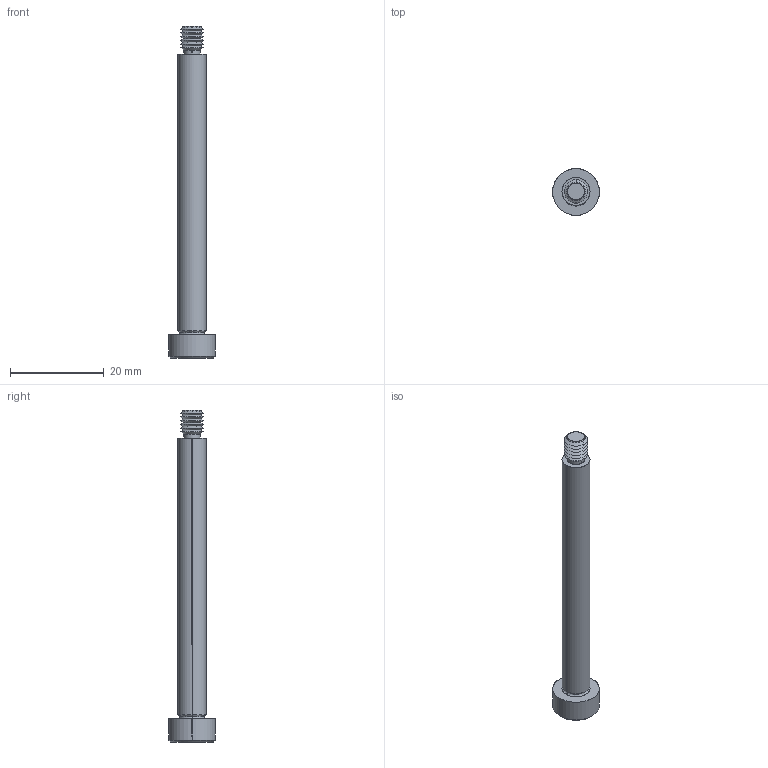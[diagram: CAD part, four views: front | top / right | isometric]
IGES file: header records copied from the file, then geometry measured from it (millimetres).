
Start section: SolidWorks IGES file using analytic representation for surfaces
Global section: file name: C:\Users\IanO\Documents\Temp Folder\GENERAL\SCREW REVISION\P0130_v2\P0130.T5_v2_20220106_IGES\P0130.060-060-T5.igs; native system: SolidWorks 2019; preprocessor: SolidWorks 2019; author: IanO; date: 220106.222755; units: millimetre
Bounding box: 10 x 10 x 71 mm (x, y, z)
Surface area: 1618.5 mm2 (no closed solid volume)
Topology: 0 solids, 0 shells, 64 faces, 504 edges, 502 vertices
Faces by surface type: revolution 44, bspline 20
